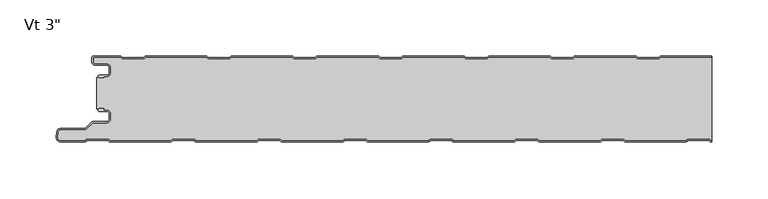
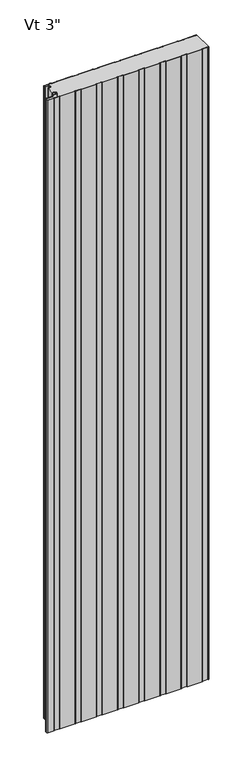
"""IFC4 building model written with IfcOpenShell, lengths in millimetres: plate geometry."""

from ifc_helpers import new_model, si_unit, point, frame, frame_2d, origin, origin_with_axes, place, context, project, spatial, polyline, circle_curve, trimmed, segment, composite_curve, outline, extrude, source, transform, mapped, element, save
from ifc_brep_helpers import plane_surface, cylinder_surface, revolved_surface, advanced_brep


def plate_165f95fd(model_context):
    return source(origin(), model_context, "Body", "SolidModel", [
        advanced_brep(
        [(-270.768691, -17.0015159, 2400.0), (-271.7686883, -18.0015191, 2400.0), (-270.768691, -19.0015105, 2400.0), (-266.7684874, -19.0015105, 2400.0), (-266.7684874, -18.0015159, 2400.0), (-264.0762776, -18.0015159, 2400.0), (-260.7762819, -14.7015202, 2400.0), (-260.7762819, -10.301529, 2400.0), (-264.0762774, -7.0015335, 2400.0), (-274.4962563, -7.0015335, 2400.0), (-276.2662505, -5.2315393, 2400.0), (-276.2662505, -0.9999916, 2400.0), (-251.7659738, -0.9999916, 2400.0), (-250.3803312, -2.2002307, 2400.0), (-231.0051649, -2.2002307, 2400.0), (-229.619532, -1.0, 2400.0), (-175.5661166, -1.0, 2400.0), (-174.1804836, -2.2002307, 2400.0), (-154.8053173, -2.2002307, 2400.0), (-153.4196844, -1.0, 2400.0), (-99.366269, -1.0, 2400.0), (-97.980636, -2.2002307, 2400.0), (-78.6054697, -2.2002307, 2400.0), (-77.2198368, -1.0, 2400.0), (-23.1664214, -1.0, 2400.0), (-21.7807884, -2.2002307, 2400.0), (-2.4056221, -2.2002307, 2400.0), (-1.0199892, -1.0, 2400.0), (53.0334262, -1.0, 2400.0), (54.4190592, -2.2002307, 2400.0), (73.7942255, -2.2002307, 2400.0), (75.1798584, -1.0, 2400.0), (129.2332738, -1.0, 2400.0), (130.6189068, -2.2002307, 2400.0), (149.9940731, -2.2002307, 2400.0), (151.379706, -1.0, 2400.0), (205.4331214, -1.0, 2400.0), (206.8187544, -2.2002307, 2400.0), (226.1939207, -2.2002307, 2400.0), (227.5795536, -1.0, 2400.0), (272.7999998, -1.0, 2400.0), (272.7999998, 0.0, 2400.0), (227.7287048, 0.0, 2400.0), (226.8120879, -0.3417885, 2400.0), (225.8210403, -1.2002307, 2400.0), (207.1916348, -1.2002307, 2400.0), (206.2005872, -0.3417885, 2400.0), (205.2839703, 0.0, 2400.0), (151.5288572, 0.0, 2400.0), (150.6122403, -0.3417885, 2400.0), (149.6211927, -1.2002307, 2400.0), (130.9917872, -1.2002307, 2400.0), (130.0007396, -0.3417885, 2400.0), (129.0841227, 0.0, 2400.0), (75.3290096, 0.0, 2400.0), (74.4123927, -0.3417885, 2400.0), (73.4213451, -1.2002307, 2400.0), (54.7919396, -1.2002307, 2400.0), (53.800892, -0.3417885, 2400.0), (52.8842751, 0.0, 2400.0), (-0.870838, 0.0, 2400.0), (-1.7874549, -0.3417885, 2400.0), (-2.7785025, -1.2002307, 2400.0), (-21.407908, -1.2002307, 2400.0), (-22.3989556, -0.3417885, 2400.0), (-23.3155725, 0.0, 2400.0), (-77.0706856, 0.0, 2400.0), (-77.9873025, -0.3417885, 2400.0), (-78.9783501, -1.2002307, 2400.0), (-97.6077556, -1.2002307, 2400.0), (-98.5988032, -0.3417885, 2400.0), (-99.5154201, 0.0, 2400.0), (-153.2705332, 0.0, 2400.0), (-154.1871501, -0.3417885, 2400.0), (-155.1781977, -1.2002307, 2400.0), (-173.8076032, -1.2002307, 2400.0), (-174.7986508, -0.3417885, 2400.0), (-175.7152677, 0.0, 2400.0), (-229.4703808, 0.0, 2400.0), (-230.3869977, -0.3417885, 2400.0), (-231.3780453, -1.2002307, 2400.0), (-250.0074508, -1.2002307, 2400.0), (-250.9984984, -0.3417885, 2400.0), (-251.9152067, 0.0, 2400.0), (-275.8662543, 8.4e-06, 2400.0), (-277.2662505, -1.3999878, 2400.0), (-277.2662505, -5.2315393, 2400.0), (-274.4962563, -8.0015335, 2400.0), (-264.0762774, -8.0015335, 2400.0), (-261.7762819, -10.301529, 2400.0), (-261.7762819, -14.7015202, 2400.0), (-264.0762776, -17.0015159, 2400.0), (-270.768691, -17.0015159, 0.0), (-264.0762776, -17.0015159, 0.0), (-261.7762819, -14.7015202, 0.0), (-261.7762819, -10.301529, 0.0), (-264.0762774, -8.0015335, 0.0), (-274.4962563, -8.0015335, 0.0), (-277.2662505, -5.2315393, 0.0), (-277.2662505, -1.3999878, 0.0), (-275.8662543, 8.4e-06, 0.0), (-251.9151153, 8.4e-06, 0.0), (-250.9984984, -0.3417885, 0.0), (-250.0074508, -1.2002307, 0.0), (-231.3780453, -1.2002307, 0.0), (-230.3869977, -0.3417885, 0.0), (-229.4703808, 0.0, 0.0), (-175.7152677, 0.0, 0.0), (-174.7986508, -0.3417885, 0.0), (-173.8076032, -1.2002307, 0.0), (-155.1781977, -1.2002307, 0.0), (-154.1871501, -0.3417885, 0.0), (-153.2705332, 0.0, 0.0), (-99.5154201, 0.0, 0.0), (-98.5988032, -0.3417885, 0.0), (-97.6077556, -1.2002307, 0.0), (-78.9783501, -1.2002307, 0.0), (-77.9873025, -0.3417885, 0.0), (-77.0706856, 0.0, 0.0), (-23.3155725, 0.0, 0.0), (-22.3989556, -0.3417885, 0.0), (-21.407908, -1.2002307, 0.0), (-2.7785025, -1.2002307, 0.0), (-1.7874549, -0.3417885, 0.0), (-0.870838, 0.0, 0.0), (52.8842751, 0.0, 0.0), (53.800892, -0.3417885, 0.0), (54.7919396, -1.2002307, 0.0), (73.4213451, -1.2002307, 0.0), (74.4123927, -0.3417885, 0.0), (75.3290096, 0.0, 0.0), (129.0841227, 0.0, 0.0), (130.0007396, -0.3417885, 0.0), (130.9917872, -1.2002307, 0.0), (149.6211927, -1.2002307, 0.0), (150.6122403, -0.3417885, 0.0), (151.5288572, 0.0, 0.0), (205.2839703, 0.0, 0.0), (206.2005872, -0.3417885, 0.0), (207.1916348, -1.2002307, 0.0), (225.8210403, -1.2002307, 0.0), (226.8120879, -0.3417885, 0.0), (227.7287048, 0.0, 0.0), (272.7999998, 0.0, 0.0), (272.7999998, -1.0, 0.0), (227.5795536, -1.0, 0.0), (226.1939207, -2.2002307, 0.0), (206.8187544, -2.2002307, 0.0), (205.4331214, -1.0, 0.0), (151.379706, -1.0, 0.0), (149.9940731, -2.2002307, 0.0), (130.6189068, -2.2002307, 0.0), (129.2332738, -1.0, 0.0), (75.1798584, -1.0, 0.0), (73.7942255, -2.2002307, 0.0), (54.4190592, -2.2002307, 0.0), (53.0334262, -1.0, 0.0), (-1.0199892, -1.0, 0.0), (-2.4056221, -2.2002307, 0.0), (-21.7807884, -2.2002307, 0.0), (-23.1664214, -1.0, 0.0), (-77.2198368, -1.0, 0.0), (-78.6054697, -2.2002307, 0.0), (-97.980636, -2.2002307, 0.0), (-99.366269, -1.0, 0.0), (-153.4196844, -1.0, 0.0), (-154.8053173, -2.2002307, 0.0), (-174.1804836, -2.2002307, 0.0), (-175.5661166, -1.0, 0.0), (-229.619532, -1.0, 0.0), (-231.0051649, -2.2002307, 0.0), (-250.3803312, -2.2002307, 0.0), (-251.7659738, -0.9999916, 0.0), (-276.2662505, -0.9999916, 0.0), (-276.2662505, -5.2315393, 0.0), (-274.4962563, -7.0015335, 0.0), (-264.0762774, -7.0015335, 0.0), (-260.7762819, -10.301529, 0.0), (-260.7762819, -14.7015202, 0.0), (-264.0762776, -18.0015159, 0.0), (-266.7684874, -18.0015159, 0.0), (-266.7684874, -19.0015105, 0.0), (-270.768691, -19.0015105, 0.0), (-271.7686882, -18.0015192, 0.0)],
        [
            (0, 1, circle_curve(frame((-270.768691, -18.0015132, 2400.0), z_axis=(0.0, 0.0, 1.0), x_axis=(1.0, 0.0, 0.0)), 0.9999973)),
            (1, 2, circle_curve(frame((-270.768691, -18.0015133, 2400.0), z_axis=(0.0, 0.0, 1.0), x_axis=(1.0, 0.0, 0.0)), 0.9999972)),
            (2, 3),
            (3, 4),
            (4, 5),
            (5, 6, circle_curve(frame((-264.0762776, -14.7015202, 2400.0), z_axis=(0.0, 0.0, 1.0), x_axis=(1.0, 0.0, 0.0)), 3.2999957)),
            (6, 7),
            (7, 8, circle_curve(frame((-264.0762774, -10.301529, 2400.0), z_axis=(0.0, 0.0, 1.0), x_axis=(1.0, 0.0, 0.0)), 3.2999955)),
            (8, 9),
            (9, 10, circle_curve(frame((-274.4962563, -5.2315393, 2400.0), z_axis=(0.0, 0.0, -1.0), x_axis=(1.0, 0.0, 0.0)), 1.7699942)),
            (10, 11),
            (11, 12),
            (12, 13),
            (13, 14),
            (14, 15),
            (15, 16),
            (16, 17),
            (17, 18),
            (18, 19),
            (19, 20),
            (20, 21),
            (21, 22),
            (22, 23),
            (23, 24),
            (24, 25),
            (25, 26),
            (26, 27),
            (27, 28),
            (28, 29),
            (29, 30),
            (30, 31),
            (31, 32),
            (32, 33),
            (33, 34),
            (34, 35),
            (35, 36),
            (36, 37),
            (37, 38),
            (38, 39),
            (39, 40),
            (40, 41),
            (41, 42),
            (42, 43, circle_curve(frame((227.7287048, -1.3999972, 2400.0), z_axis=(0.0, 0.0, 1.0), x_axis=(1.0, 0.0, 0.0)), 1.3999972)),
            (43, 44),
            (44, 45),
            (45, 46),
            (46, 47, circle_curve(frame((205.2839703, -1.3999972, 2400.0), z_axis=(0.0, 0.0, 1.0), x_axis=(1.0, 0.0, 0.0)), 1.3999972)),
            (47, 48),
            (48, 49, circle_curve(frame((151.5288572, -1.3999972, 2400.0), z_axis=(0.0, 0.0, 1.0), x_axis=(1.0, 0.0, 0.0)), 1.3999972)),
            (49, 50),
            (50, 51),
            (51, 52),
            (52, 53, circle_curve(frame((129.0841227, -1.3999972, 2400.0), z_axis=(0.0, 0.0, 1.0), x_axis=(1.0, 0.0, 0.0)), 1.3999972)),
            (53, 54),
            (54, 55, circle_curve(frame((75.3290096, -1.3999972, 2400.0), z_axis=(0.0, 0.0, 1.0), x_axis=(1.0, 0.0, 0.0)), 1.3999972)),
            (55, 56),
            (56, 57),
            (57, 58),
            (58, 59, circle_curve(frame((52.8842751, -1.3999972, 2400.0), z_axis=(0.0, 0.0, 1.0), x_axis=(1.0, 0.0, 0.0)), 1.3999972)),
            (59, 60),
            (60, 61, circle_curve(frame((-0.870838, -1.3999972, 2400.0), z_axis=(0.0, 0.0, 1.0), x_axis=(1.0, 0.0, 0.0)), 1.3999972)),
            (61, 62),
            (62, 63),
            (63, 64),
            (64, 65, circle_curve(frame((-23.3155725, -1.3999972, 2400.0), z_axis=(0.0, 0.0, 1.0), x_axis=(1.0, 0.0, 0.0)), 1.3999972)),
            (65, 66),
            (66, 67, circle_curve(frame((-77.0706856, -1.3999972, 2400.0), z_axis=(0.0, 0.0, 1.0), x_axis=(1.0, 0.0, 0.0)), 1.3999972)),
            (67, 68),
            (68, 69),
            (69, 70),
            (70, 71, circle_curve(frame((-99.5154201, -1.3999972, 2400.0), z_axis=(0.0, 0.0, 1.0), x_axis=(1.0, 0.0, 0.0)), 1.3999972)),
            (71, 72),
            (72, 73, circle_curve(frame((-153.2705332, -1.3999972, 2400.0), z_axis=(0.0, 0.0, 1.0), x_axis=(1.0, 0.0, 0.0)), 1.3999972)),
            (73, 74),
            (74, 75),
            (75, 76),
            (76, 77, circle_curve(frame((-175.7152677, -1.3999972, 2400.0), z_axis=(0.0, 0.0, 1.0), x_axis=(1.0, 0.0, 0.0)), 1.3999972)),
            (77, 78),
            (78, 79, circle_curve(frame((-229.4703808, -1.3999972, 2400.0), z_axis=(0.0, 0.0, 1.0), x_axis=(1.0, 0.0, 0.0)), 1.3999972)),
            (79, 80),
            (80, 81),
            (81, 82),
            (82, 83, circle_curve(frame((-251.9151153, -1.3999972, 2400.0), z_axis=(0.0, 0.0, 1.0), x_axis=(1.0, 0.0, 0.0)), 1.3999972)),
            (83, 84),
            (84, 85, circle_curve(frame((-275.8662543, -1.3999878, 2400.0), z_axis=(0.0, 0.0, 1.0), x_axis=(1.0, 0.0, 0.0)), 1.3999962)),
            (85, 86),
            (86, 87, circle_curve(frame((-274.4962563, -5.2315393, 2400.0), z_axis=(0.0, 0.0, 1.0), x_axis=(1.0, 0.0, 0.0)), 2.7699942)),
            (87, 88),
            (88, 89, circle_curve(frame((-264.0762774, -10.301529, 2400.0), z_axis=(0.0, 0.0, -1.0), x_axis=(1.0, 0.0, 0.0)), 2.2999955)),
            (89, 90),
            (90, 91, circle_curve(frame((-264.0762776, -14.7015202, 2400.0), z_axis=(0.0, 0.0, -1.0), x_axis=(1.0, 0.0, 0.0)), 2.2999957)),
            (91, 0),
            (92, 93),
            (93, 94, circle_curve(frame((-264.0762776, -14.7015202, 0.0), z_axis=(0.0, 0.0, 1.0), x_axis=(1.0, 0.0, 0.0)), 2.2999957)),
            (94, 95),
            (95, 96, circle_curve(frame((-264.0762774, -10.301529, 0.0), z_axis=(0.0, 0.0, 1.0), x_axis=(1.0, 0.0, 0.0)), 2.2999955)),
            (96, 97),
            (97, 98, circle_curve(frame((-274.4962563, -5.2315393, 0.0), z_axis=(0.0, 0.0, -1.0), x_axis=(1.0, 0.0, 0.0)), 2.7699942)),
            (98, 99),
            (99, 100, circle_curve(frame((-275.8662543, -1.3999878, 0.0), z_axis=(0.0, 0.0, -1.0), x_axis=(1.0, 0.0, 0.0)), 1.3999962)),
            (100, 101),
            (101, 102, circle_curve(frame((-251.9151153, -1.3999972, 0.0), z_axis=(0.0, 0.0, -1.0), x_axis=(1.0, 0.0, 0.0)), 1.3999972)),
            (102, 103),
            (103, 104),
            (104, 105),
            (105, 106, circle_curve(frame((-229.4703808, -1.3999972, 0.0), z_axis=(0.0, 0.0, -1.0), x_axis=(1.0, 0.0, 0.0)), 1.3999972)),
            (106, 107),
            (107, 108, circle_curve(frame((-175.7152677, -1.3999972, 0.0), z_axis=(0.0, 0.0, -1.0), x_axis=(1.0, 0.0, 0.0)), 1.3999972)),
            (108, 109),
            (109, 110),
            (110, 111),
            (111, 112, circle_curve(frame((-153.2705332, -1.3999972, 0.0), z_axis=(0.0, 0.0, -1.0), x_axis=(1.0, 0.0, 0.0)), 1.3999972)),
            (112, 113),
            (113, 114, circle_curve(frame((-99.5154201, -1.3999972, 0.0), z_axis=(0.0, 0.0, -1.0), x_axis=(1.0, 0.0, 0.0)), 1.3999972)),
            (114, 115),
            (115, 116),
            (116, 117),
            (117, 118, circle_curve(frame((-77.0706856, -1.3999972, 0.0), z_axis=(0.0, 0.0, -1.0), x_axis=(1.0, 0.0, 0.0)), 1.3999972)),
            (118, 119),
            (119, 120, circle_curve(frame((-23.3155725, -1.3999972, 0.0), z_axis=(0.0, 0.0, -1.0), x_axis=(1.0, 0.0, 0.0)), 1.3999972)),
            (120, 121),
            (121, 122),
            (122, 123),
            (123, 124, circle_curve(frame((-0.870838, -1.3999972, 0.0), z_axis=(0.0, 0.0, -1.0), x_axis=(1.0, 0.0, 0.0)), 1.3999972)),
            (124, 125),
            (125, 126, circle_curve(frame((52.8842751, -1.3999972, 0.0), z_axis=(0.0, 0.0, -1.0), x_axis=(1.0, 0.0, 0.0)), 1.3999972)),
            (126, 127),
            (127, 128),
            (128, 129),
            (129, 130, circle_curve(frame((75.3290096, -1.3999972, 0.0), z_axis=(0.0, 0.0, -1.0), x_axis=(1.0, 0.0, 0.0)), 1.3999972)),
            (130, 131),
            (131, 132, circle_curve(frame((129.0841227, -1.3999972, 0.0), z_axis=(0.0, 0.0, -1.0), x_axis=(1.0, 0.0, 0.0)), 1.3999972)),
            (132, 133),
            (133, 134),
            (134, 135),
            (135, 136, circle_curve(frame((151.5288572, -1.3999972, 0.0), z_axis=(0.0, 0.0, -1.0), x_axis=(1.0, 0.0, 0.0)), 1.3999972)),
            (136, 137),
            (137, 138, circle_curve(frame((205.2839703, -1.3999972, 0.0), z_axis=(0.0, 0.0, -1.0), x_axis=(1.0, 0.0, 0.0)), 1.3999972)),
            (138, 139),
            (139, 140),
            (140, 141),
            (141, 142, circle_curve(frame((227.7287048, -1.3999972, 0.0), z_axis=(0.0, 0.0, -1.0), x_axis=(1.0, 0.0, 0.0)), 1.3999972)),
            (142, 143),
            (143, 144),
            (144, 145),
            (145, 146),
            (146, 147),
            (147, 148),
            (148, 149),
            (149, 150),
            (150, 151),
            (151, 152),
            (152, 153),
            (153, 154),
            (154, 155),
            (155, 156),
            (156, 157),
            (157, 158),
            (158, 159),
            (159, 160),
            (160, 161),
            (161, 162),
            (162, 163),
            (163, 164),
            (164, 165),
            (165, 166),
            (166, 167),
            (167, 168),
            (168, 169),
            (169, 170),
            (170, 171),
            (171, 172),
            (172, 173),
            (173, 174),
            (174, 175, circle_curve(frame((-274.4962563, -5.2315393, 0.0), z_axis=(0.0, 0.0, 1.0), x_axis=(1.0, 0.0, 0.0)), 1.7699942)),
            (175, 176),
            (176, 177, circle_curve(frame((-264.0762774, -10.301529, 0.0), z_axis=(0.0, 0.0, -1.0), x_axis=(1.0, 0.0, 0.0)), 3.2999955)),
            (177, 178),
            (178, 179, circle_curve(frame((-264.0762776, -14.7015202, 0.0), z_axis=(0.0, 0.0, -1.0), x_axis=(1.0, 0.0, 0.0)), 3.2999957)),
            (179, 180),
            (180, 181),
            (181, 182),
            (182, 183, circle_curve(frame((-270.768691, -18.0015133, 0.0), z_axis=(0.0, 0.0, -1.0), x_axis=(1.0, 0.0, 0.0)), 0.9999972)),
            (183, 92, circle_curve(frame((-270.768691, -18.0015132, 0.0), z_axis=(0.0, 0.0, -1.0), x_axis=(1.0, 0.0, 0.0)), 0.9999973)),
            (91, 93),
            (92, 0),
            (90, 94),
            (89, 95),
            (88, 96),
            (87, 97),
            (86, 98),
            (85, 99),
            (84, 100),
            (83, 101),
            (10, 174),
            (173, 11),
            (9, 175),
            (8, 176),
            (7, 177),
            (6, 178),
            (5, 179),
            (4, 180),
            (3, 181),
            (2, 182),
            (1, 183),
            (40, 144),
            (143, 41),
            (82, 102),
            (81, 103),
            (80, 104),
            (79, 105),
            (78, 106),
            (77, 107),
            (76, 108),
            (75, 109),
            (74, 110),
            (73, 111),
            (72, 112),
            (71, 113),
            (70, 114),
            (69, 115),
            (68, 116),
            (67, 117),
            (66, 118),
            (65, 119),
            (64, 120),
            (63, 121),
            (62, 122),
            (61, 123),
            (60, 124),
            (59, 125),
            (58, 126),
            (57, 127),
            (56, 128),
            (55, 129),
            (54, 130),
            (53, 131),
            (52, 132),
            (51, 133),
            (50, 134),
            (49, 135),
            (48, 136),
            (47, 137),
            (46, 138),
            (45, 139),
            (44, 140),
            (43, 141),
            (42, 142),
            (39, 145),
            (38, 146),
            (37, 147),
            (36, 148),
            (35, 149),
            (34, 150),
            (33, 151),
            (32, 152),
            (31, 153),
            (30, 154),
            (29, 155),
            (28, 156),
            (27, 157),
            (26, 158),
            (25, 159),
            (24, 160),
            (23, 161),
            (22, 162),
            (21, 163),
            (20, 164),
            (19, 165),
            (18, 166),
            (17, 167),
            (16, 168),
            (15, 169),
            (14, 170),
            (13, 171),
            (12, 172),
        ],
        [
            plane_surface(frame((184.4000002, 0.0, 2400.0), z_axis=(0.0, 0.0, 1.0), x_axis=(0.0, 1.0, 0.0))),
            plane_surface(frame((184.4000002, 0.0, 0.0), z_axis=(0.0, 0.0, -1.0), x_axis=(0.0, 1.0, 0.0))),
            plane_surface(frame((-270.768691, -17.0015159, 2400.0), z_axis=(0.0, 1.0, 0.0), x_axis=(0.0, 0.0, -1.0))),
            revolved_surface(polyline([(-261.7762819, -14.7015202, 0.0), (-261.7762819, -14.7015202, 2400.0)]), (-264.0762776, -14.7015202, 2400.0), (0.0, 0.0, -1.0)),
            plane_surface(frame((-261.7762819, -14.7015202, 2400.0), z_axis=(-1.0, 0.0, 0.0), x_axis=(0.0, 0.0, -1.0))),
            revolved_surface(polyline([(-261.77628189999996, -10.301529, 0.0), (-261.77628189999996, -10.301529, 2400.0)]), (-264.0762774, -10.301529, 2400.0), (0.0, 0.0, -1.0)),
            plane_surface(frame((-264.0762774, -8.0015335, 2400.0), z_axis=(0.0, -1.0, 0.0), x_axis=(0.0, 0.0, -1.0))),
            cylinder_surface(frame((-274.4962563, -5.2315393, 2400.0), z_axis=(0.0, 0.0, 1.0), x_axis=(1.0, 0.0, 0.0)), 2.7699942),
            plane_surface(frame((-277.2662505, -5.2315393, 2400.0), z_axis=(-1.0, 0.0, 0.0), x_axis=(0.0, 0.0, -1.0))),
            cylinder_surface(frame((-275.8662543, -1.3999878, 2400.0), z_axis=(0.0, 0.0, 1.0), x_axis=(1.0, 0.0, 0.0)), 1.3999962),
            plane_surface(frame((-275.8662543, 8.4e-06, 2400.0), z_axis=(0.0, 1.0, 0.0), x_axis=(0.0, 0.0, -1.0))),
            plane_surface(frame((-276.2662505, -0.9999916, 2400.0), z_axis=(1.0, 0.0, 0.0), x_axis=(0.0, 0.0, -1.0))),
            revolved_surface(polyline([(-272.72626210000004, -5.2315393, 0.0), (-272.72626210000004, -5.2315393, 2400.0)]), (-274.4962563, -5.2315393, 2400.0), (0.0, 0.0, -1.0)),
            plane_surface(frame((-274.4962563, -7.0015335, 2400.0), z_axis=(0.0, 1.0, 0.0), x_axis=(0.0, 0.0, -1.0))),
            cylinder_surface(frame((-264.0762774, -10.301529, 2400.0), z_axis=(0.0, 0.0, 1.0), x_axis=(1.0, 0.0, 0.0)), 3.2999955),
            plane_surface(frame((-260.7762819, -10.301529, 2400.0), z_axis=(1.0, 0.0, 0.0), x_axis=(0.0, 0.0, -1.0))),
            cylinder_surface(frame((-264.0762776, -14.7015202, 2400.0), z_axis=(0.0, 0.0, 1.0), x_axis=(1.0, 0.0, 0.0)), 3.2999957),
            plane_surface(frame((-264.0762776, -18.0015159, 2400.0), z_axis=(0.0, -1.0, 0.0), x_axis=(0.0, 0.0, -1.0))),
            plane_surface(frame((-266.7684874, -18.0015159, 2400.0), z_axis=(1.0, 0.0, 0.0), x_axis=(0.0, 0.0, -1.0))),
            plane_surface(frame((-266.7684874, -19.0015105, 2400.0), z_axis=(0.0, -1.0, 0.0), x_axis=(0.0, 0.0, -1.0))),
            cylinder_surface(frame((-270.768691, -18.0015133, 2400.0), z_axis=(0.0, 0.0, 1.0), x_axis=(1.0, 0.0, 0.0)), 0.9999972),
            cylinder_surface(frame((-270.768691, -18.0015132, 2400.0), z_axis=(0.0, 0.0, 1.0), x_axis=(1.0, 0.0, 0.0)), 0.9999973),
            plane_surface(frame((272.7999998, -86.2, 2400.0), z_axis=(1.0, 0.0, 0.0), x_axis=(0.0, 0.0, -1.0))),
            cylinder_surface(frame((-251.9151153, -1.3999972, 2400.0), z_axis=(0.0, 0.0, 1.0), x_axis=(1.0, 0.0, 0.0)), 1.3999972),
            plane_surface(frame((-250.9984984, -0.3417885, 2400.0), z_axis=(0.6547276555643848, 0.7558648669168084, 0.0), x_axis=(0.0, 0.0, -1.0))),
            plane_surface(frame((-240.6927481, -1.2002307, 2400.0), z_axis=(0.0, 1.0, 0.0), x_axis=(0.0, 0.0, -1.0))),
            plane_surface(frame((-231.3780453, -1.2002307, 2400.0), z_axis=(-0.6547276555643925, 0.7558648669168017, 0.0), x_axis=(0.0, 0.0, -1.0))),
            cylinder_surface(frame((-229.4703808, -1.3999972, 2400.0), z_axis=(0.0, 0.0, 1.0), x_axis=(1.0, 0.0, 0.0)), 1.3999972),
            plane_surface(frame((-229.4703808, 0.0, 2400.0), z_axis=(0.0, 1.0, 0.0), x_axis=(0.0, 0.0, -1.0))),
            cylinder_surface(frame((-175.7152677, -1.3999972, 2400.0), z_axis=(0.0, 0.0, 1.0), x_axis=(1.0, 0.0, 0.0)), 1.3999972),
            plane_surface(frame((-174.7986508, -0.3417885, 2400.0), z_axis=(0.6547276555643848, 0.7558648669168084, 0.0), x_axis=(0.0, 0.0, -1.0))),
            plane_surface(frame((-164.4929005, -1.2002307, 2400.0), z_axis=(0.0, 1.0, 0.0), x_axis=(0.0, 0.0, -1.0))),
            plane_surface(frame((-155.1781977, -1.2002307, 2400.0), z_axis=(-0.6547276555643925, 0.7558648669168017, 0.0), x_axis=(0.0, 0.0, -1.0))),
            cylinder_surface(frame((-153.2705332, -1.3999972, 2400.0), z_axis=(0.0, 0.0, 1.0), x_axis=(1.0, 0.0, 0.0)), 1.3999972),
            plane_surface(frame((-153.2705332, 0.0, 2400.0), z_axis=(0.0, 1.0, 0.0), x_axis=(0.0, 0.0, -1.0))),
            cylinder_surface(frame((-99.5154201, -1.3999972, 2400.0), z_axis=(0.0, 0.0, 1.0), x_axis=(1.0, 0.0, 0.0)), 1.3999972),
            plane_surface(frame((-98.5988032, -0.3417885, 2400.0), z_axis=(0.6547276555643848, 0.7558648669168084, 0.0), x_axis=(0.0, 0.0, -1.0))),
            plane_surface(frame((-88.2930529, -1.2002307, 2400.0), z_axis=(0.0, 1.0, 0.0), x_axis=(0.0, 0.0, -1.0))),
            plane_surface(frame((-78.9783501, -1.2002307, 2400.0), z_axis=(-0.6547276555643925, 0.7558648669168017, 0.0), x_axis=(0.0, 0.0, -1.0))),
            cylinder_surface(frame((-77.0706856, -1.3999972, 2400.0), z_axis=(0.0, 0.0, 1.0), x_axis=(1.0, 0.0, 0.0)), 1.3999972),
            plane_surface(frame((-77.0706856, 0.0, 2400.0), z_axis=(0.0, 1.0, 0.0), x_axis=(0.0, 0.0, -1.0))),
            cylinder_surface(frame((-23.3155725, -1.3999972, 2400.0), z_axis=(0.0, 0.0, 1.0), x_axis=(1.0, 0.0, 0.0)), 1.3999972),
            plane_surface(frame((-22.3989556, -0.3417885, 2400.0), z_axis=(0.6547276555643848, 0.7558648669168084, 0.0), x_axis=(0.0, 0.0, -1.0))),
            plane_surface(frame((-12.0932053, -1.2002307, 2400.0), z_axis=(0.0, 1.0, 0.0), x_axis=(0.0, 0.0, -1.0))),
            plane_surface(frame((-2.7785025, -1.2002307, 2400.0), z_axis=(-0.6547276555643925, 0.7558648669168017, 0.0), x_axis=(0.0, 0.0, -1.0))),
            cylinder_surface(frame((-0.870838, -1.3999972, 2400.0), z_axis=(0.0, 0.0, 1.0), x_axis=(1.0, 0.0, 0.0)), 1.3999972),
            plane_surface(frame((-0.870838, 0.0, 2400.0), z_axis=(0.0, 1.0, 0.0), x_axis=(0.0, 0.0, -1.0))),
            cylinder_surface(frame((52.8842751, -1.3999972, 2400.0), z_axis=(0.0, 0.0, 1.0), x_axis=(1.0, 0.0, 0.0)), 1.3999972),
            plane_surface(frame((53.800892, -0.3417885, 2400.0), z_axis=(0.6547276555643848, 0.7558648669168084, 0.0), x_axis=(0.0, 0.0, -1.0))),
            plane_surface(frame((64.1066423, -1.2002307, 2400.0), z_axis=(0.0, 1.0, 0.0), x_axis=(0.0, 0.0, -1.0))),
            plane_surface(frame((73.4213451, -1.2002307, 2400.0), z_axis=(-0.6547276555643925, 0.7558648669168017, 0.0), x_axis=(0.0, 0.0, -1.0))),
            cylinder_surface(frame((75.3290096, -1.3999972, 2400.0), z_axis=(0.0, 0.0, 1.0), x_axis=(1.0, 0.0, 0.0)), 1.3999972),
            plane_surface(frame((75.3290096, 0.0, 2400.0), z_axis=(0.0, 1.0, 0.0), x_axis=(0.0, 0.0, -1.0))),
            cylinder_surface(frame((129.0841227, -1.3999972, 2400.0), z_axis=(0.0, 0.0, 1.0), x_axis=(1.0, 0.0, 0.0)), 1.3999972),
            plane_surface(frame((130.0007396, -0.3417885, 2400.0), z_axis=(0.6547276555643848, 0.7558648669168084, 0.0), x_axis=(0.0, 0.0, -1.0))),
            plane_surface(frame((140.3064899, -1.2002307, 2400.0), z_axis=(0.0, 1.0, 0.0), x_axis=(0.0, 0.0, -1.0))),
            plane_surface(frame((149.6211927, -1.2002307, 2400.0), z_axis=(-0.6547276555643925, 0.7558648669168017, 0.0), x_axis=(0.0, 0.0, -1.0))),
            cylinder_surface(frame((151.5288572, -1.3999972, 2400.0), z_axis=(0.0, 0.0, 1.0), x_axis=(1.0, 0.0, 0.0)), 1.3999972),
            plane_surface(frame((151.5288572, 0.0, 2400.0), z_axis=(0.0, 1.0, 0.0), x_axis=(0.0, 0.0, -1.0))),
            cylinder_surface(frame((205.2839703, -1.3999972, 2400.0), z_axis=(0.0, 0.0, 1.0), x_axis=(1.0, 0.0, 0.0)), 1.3999972),
            plane_surface(frame((206.2005872, -0.3417885, 2400.0), z_axis=(0.6547276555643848, 0.7558648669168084, 0.0), x_axis=(0.0, 0.0, -1.0))),
            plane_surface(frame((216.5063375, -1.2002307, 2400.0), z_axis=(0.0, 1.0, 0.0), x_axis=(0.0, 0.0, -1.0))),
            plane_surface(frame((225.8210403, -1.2002307, 2400.0), z_axis=(-0.6547276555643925, 0.7558648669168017, 0.0), x_axis=(0.0, 0.0, -1.0))),
            cylinder_surface(frame((227.7287048, -1.3999972, 2400.0), z_axis=(0.0, 0.0, 1.0), x_axis=(1.0, 0.0, 0.0)), 1.3999972),
            plane_surface(frame((227.7287048, 0.0, 2400.0), z_axis=(0.0, 1.0, 0.0), x_axis=(0.0, 0.0, -1.0))),
            plane_surface(frame((281.632969, -1.0, 2400.0), z_axis=(0.0, -1.0, 0.0), x_axis=(0.0, 0.0, -1.0))),
            plane_surface(frame((227.5795536, -1.0, 2400.0), z_axis=(0.6547276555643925, -0.7558648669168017, 0.0), x_axis=(0.0, 0.0, -1.0))),
            plane_surface(frame((226.1939207, -2.2002307, 2400.0), z_axis=(0.0, -1.0, 0.0), x_axis=(0.0, 0.0, -1.0))),
            plane_surface(frame((206.8187544, -2.2002307, 2400.0), z_axis=(-0.6547276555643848, -0.7558648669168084, 0.0), x_axis=(0.0, 0.0, -1.0))),
            plane_surface(frame((205.4331214, -1.0, 2400.0), z_axis=(0.0, -1.0, 0.0), x_axis=(0.0, 0.0, -1.0))),
            plane_surface(frame((151.379706, -1.0, 2400.0), z_axis=(0.6547276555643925, -0.7558648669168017, 0.0), x_axis=(0.0, 0.0, -1.0))),
            plane_surface(frame((149.9940731, -2.2002307, 2400.0), z_axis=(0.0, -1.0, 0.0), x_axis=(0.0, 0.0, -1.0))),
            plane_surface(frame((130.6189068, -2.2002307, 2400.0), z_axis=(-0.6547276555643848, -0.7558648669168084, 0.0), x_axis=(0.0, 0.0, -1.0))),
            plane_surface(frame((129.2332738, -1.0, 2400.0), z_axis=(0.0, -1.0, 0.0), x_axis=(0.0, 0.0, -1.0))),
            plane_surface(frame((75.1798584, -1.0, 2400.0), z_axis=(0.6547276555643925, -0.7558648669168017, 0.0), x_axis=(0.0, 0.0, -1.0))),
            plane_surface(frame((73.7942255, -2.2002307, 2400.0), z_axis=(0.0, -1.0, 0.0), x_axis=(0.0, 0.0, -1.0))),
            plane_surface(frame((54.4190592, -2.2002307, 2400.0), z_axis=(-0.6547276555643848, -0.7558648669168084, 0.0), x_axis=(0.0, 0.0, -1.0))),
            plane_surface(frame((53.0334262, -1.0, 2400.0), z_axis=(0.0, -1.0, 0.0), x_axis=(0.0, 0.0, -1.0))),
            plane_surface(frame((-1.0199892, -1.0, 2400.0), z_axis=(0.6547276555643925, -0.7558648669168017, 0.0), x_axis=(0.0, 0.0, -1.0))),
            plane_surface(frame((-2.4056221, -2.2002307, 2400.0), z_axis=(0.0, -1.0, 0.0), x_axis=(0.0, 0.0, -1.0))),
            plane_surface(frame((-21.7807884, -2.2002307, 2400.0), z_axis=(-0.6547276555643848, -0.7558648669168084, 0.0), x_axis=(0.0, 0.0, -1.0))),
            plane_surface(frame((-23.1664214, -1.0, 2400.0), z_axis=(0.0, -1.0, 0.0), x_axis=(0.0, 0.0, -1.0))),
            plane_surface(frame((-77.2198368, -1.0, 2400.0), z_axis=(0.6547276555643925, -0.7558648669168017, 0.0), x_axis=(0.0, 0.0, -1.0))),
            plane_surface(frame((-78.6054697, -2.2002307, 2400.0), z_axis=(0.0, -1.0, 0.0), x_axis=(0.0, 0.0, -1.0))),
            plane_surface(frame((-97.980636, -2.2002307, 2400.0), z_axis=(-0.6547276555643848, -0.7558648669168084, 0.0), x_axis=(0.0, 0.0, -1.0))),
            plane_surface(frame((-99.366269, -1.0, 2400.0), z_axis=(0.0, -1.0, 0.0), x_axis=(0.0, 0.0, -1.0))),
            plane_surface(frame((-153.4196844, -1.0, 2400.0), z_axis=(0.6547276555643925, -0.7558648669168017, 0.0), x_axis=(0.0, 0.0, -1.0))),
            plane_surface(frame((-154.8053173, -2.2002307, 2400.0), z_axis=(0.0, -1.0, 0.0), x_axis=(0.0, 0.0, -1.0))),
            plane_surface(frame((-174.1804836, -2.2002307, 2400.0), z_axis=(-0.6547276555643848, -0.7558648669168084, 0.0), x_axis=(0.0, 0.0, -1.0))),
            plane_surface(frame((-175.5661166, -1.0, 2400.0), z_axis=(0.0, -1.0, 0.0), x_axis=(0.0, 0.0, -1.0))),
            plane_surface(frame((-229.619532, -1.0, 2400.0), z_axis=(0.6547276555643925, -0.7558648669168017, 0.0), x_axis=(0.0, 0.0, -1.0))),
            plane_surface(frame((-231.0051649, -2.2002307, 2400.0), z_axis=(0.0, -1.0, 0.0), x_axis=(0.0, 0.0, -1.0))),
            plane_surface(frame((-250.3803312, -2.2002307, 2400.0), z_axis=(-0.6547276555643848, -0.7558648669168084, 0.0), x_axis=(0.0, 0.0, -1.0))),
            plane_surface(frame((-251.7659738, -0.9999916, 2400.0), z_axis=(0.0, -1.0, 0.0), x_axis=(0.0, 0.0, -1.0))),
        ],
        [
            (0, [[1, 2, 3, 4, 5, 6, 7, 8, 9, 10, 11, 12, 13, 14, 15, 16, 17, 18, 19, 20, 21, 22, 23, 24, 25, 26, 27, 28, 29, 30, 31, 32, 33, 34, 35, 36, 37, 38, 39, 40, 41, 42, 43, 44, 45, 46, 47, 48, 49, 50, 51, 52, 53, 54, 55, 56, 57, 58, 59, 60, 61, 62, 63, 64, 65, 66, 67, 68, 69, 70, 71, 72, 73, 74, 75, 76, 77, 78, 79, 80, 81, 82, 83, 84, 85, 86, 87, 88, 89, 90, 91, 92]]),
            (1, [[93, 94, 95, 96, 97, 98, 99, 100, 101, 102, 103, 104, 105, 106, 107, 108, 109, 110, 111, 112, 113, 114, 115, 116, 117, 118, 119, 120, 121, 122, 123, 124, 125, 126, 127, 128, 129, 130, 131, 132, 133, 134, 135, 136, 137, 138, 139, 140, 141, 142, 143, 144, 145, 146, 147, 148, 149, 150, 151, 152, 153, 154, 155, 156, 157, 158, 159, 160, 161, 162, 163, 164, 165, 166, 167, 168, 169, 170, 171, 172, 173, 174, 175, 176, 177, 178, 179, 180, 181, 182, 183, 184]]),
            (2, [[185, -93, 186, -92]]),
            (3, [[187, -94, -185, -91]]),
            (4, [[188, -95, -187, -90]]),
            (5, [[189, -96, -188, -89]]),
            (6, [[190, -97, -189, -88]]),
            (7, [[191, -98, -190, -87]]),
            (8, [[192, -99, -191, -86]]),
            (9, [[193, -100, -192, -85]]),
            (10, [[194, -101, -193, -84]]),
            (11, [[195, -174, 196, -11]]),
            (12, [[197, -175, -195, -10]]),
            (13, [[198, -176, -197, -9]]),
            (14, [[199, -177, -198, -8]]),
            (15, [[200, -178, -199, -7]]),
            (16, [[201, -179, -200, -6]]),
            (17, [[202, -180, -201, -5]]),
            (18, [[203, -181, -202, -4]]),
            (19, [[204, -182, -203, -3]]),
            (20, [[205, -183, -204, -2]]),
            (21, [[-186, -184, -205, -1]]),
            (22, [[206, -144, 207, -41]]),
            (23, [[208, -102, -194, -83]]),
            (24, [[209, -103, -208, -82]]),
            (25, [[210, -104, -209, -81]]),
            (26, [[211, -105, -210, -80]]),
            (27, [[212, -106, -211, -79]]),
            (28, [[213, -107, -212, -78]]),
            (29, [[214, -108, -213, -77]]),
            (30, [[215, -109, -214, -76]]),
            (31, [[216, -110, -215, -75]]),
            (32, [[217, -111, -216, -74]]),
            (33, [[218, -112, -217, -73]]),
            (34, [[219, -113, -218, -72]]),
            (35, [[220, -114, -219, -71]]),
            (36, [[221, -115, -220, -70]]),
            (37, [[222, -116, -221, -69]]),
            (38, [[223, -117, -222, -68]]),
            (39, [[224, -118, -223, -67]]),
            (40, [[225, -119, -224, -66]]),
            (41, [[226, -120, -225, -65]]),
            (42, [[227, -121, -226, -64]]),
            (43, [[228, -122, -227, -63]]),
            (44, [[229, -123, -228, -62]]),
            (45, [[230, -124, -229, -61]]),
            (46, [[231, -125, -230, -60]]),
            (47, [[232, -126, -231, -59]]),
            (48, [[233, -127, -232, -58]]),
            (49, [[234, -128, -233, -57]]),
            (50, [[235, -129, -234, -56]]),
            (51, [[236, -130, -235, -55]]),
            (52, [[237, -131, -236, -54]]),
            (53, [[238, -132, -237, -53]]),
            (54, [[239, -133, -238, -52]]),
            (55, [[240, -134, -239, -51]]),
            (56, [[241, -135, -240, -50]]),
            (57, [[242, -136, -241, -49]]),
            (58, [[243, -137, -242, -48]]),
            (59, [[244, -138, -243, -47]]),
            (60, [[245, -139, -244, -46]]),
            (61, [[246, -140, -245, -45]]),
            (62, [[247, -141, -246, -44]]),
            (63, [[248, -142, -247, -43]]),
            (64, [[-42, -207, -143, -248]]),
            (65, [[-145, -206, -40, 249]]),
            (66, [[250, -146, -249, -39]]),
            (67, [[251, -147, -250, -38]]),
            (68, [[252, -148, -251, -37]]),
            (69, [[253, -149, -252, -36]]),
            (70, [[254, -150, -253, -35]]),
            (71, [[255, -151, -254, -34]]),
            (72, [[256, -152, -255, -33]]),
            (73, [[257, -153, -256, -32]]),
            (74, [[258, -154, -257, -31]]),
            (75, [[259, -155, -258, -30]]),
            (76, [[260, -156, -259, -29]]),
            (77, [[261, -157, -260, -28]]),
            (78, [[262, -158, -261, -27]]),
            (79, [[263, -159, -262, -26]]),
            (80, [[264, -160, -263, -25]]),
            (81, [[265, -161, -264, -24]]),
            (82, [[266, -162, -265, -23]]),
            (83, [[267, -163, -266, -22]]),
            (84, [[268, -164, -267, -21]]),
            (85, [[269, -165, -268, -20]]),
            (86, [[270, -166, -269, -19]]),
            (87, [[271, -167, -270, -18]]),
            (88, [[272, -168, -271, -17]]),
            (89, [[273, -169, -272, -16]]),
            (90, [[274, -170, -273, -15]]),
            (91, [[275, -171, -274, -14]]),
            (92, [[276, -172, -275, -13]]),
            (93, [[-196, -173, -276, -12]]),
        ],
    ),
        extrude(outline(composite_curve([segment(polyline([(-283.4415932, -76.1997378), (-305.2521175, -76.1997378)]), True, "CONTINUOUS"), segment(trimmed(circle_curve(frame_2d((-305.2521175, -72.6294985)), 3.5702393), [point((-305.2521175, -76.1997378))], [point((-308.8087619, -72.3182281))], False, "CARTESIAN"), True, "CONTINUOUS"), segment(polyline([(-308.8087619, -72.3182281), (-308.3690674, -67.2941815)]), True, "CONTINUOUS"), segment(trimmed(circle_curve(frame_2d((-304.7198391, -67.9049826)), 3.6999926), [point((-308.3690674, -67.2941815))], [point((-304.7198391, -64.20499))], False, "CARTESIAN"), True, "CONTINUOUS"), segment(polyline([(-304.7198391, -64.20499), (-283.5773995, -64.20499)]), True, "CONTINUOUS"), segment(trimmed(circle_curve(frame_2d((-283.5773995, -62.9049926)), 1.2999974), [point((-283.5773995, -64.20499))], [point((-282.6581626, -63.8242296))], True, "CARTESIAN"), True, "CONTINUOUS"), segment(polyline([(-282.6581626, -63.8242296), (-277.8297451, -58.9958121)]), True, "CONTINUOUS"), segment(trimmed(circle_curve(frame_2d((-275.9205606, -60.9049966)), 2.6999946), [point((-277.8297451, -58.9958121))], [point((-275.9205606, -58.205002))], False, "CARTESIAN"), True, "CONTINUOUS"), segment(polyline([(-275.9205606, -58.205002), (-264.1096715, -58.205002)]), True, "CONTINUOUS"), segment(trimmed(circle_curve(frame_2d((-264.1096715, -55.8550067)), 2.3499953), [point((-264.1096715, -58.205002))], [point((-261.7596762, -55.8550067))], True, "CARTESIAN"), True, "CONTINUOUS"), segment(polyline([(-261.7596762, -55.8550067), (-261.7596762, -51.4550155)]), True, "CONTINUOUS"), segment(trimmed(circle_curve(frame_2d((-264.1096715, -51.4550155)), 2.3499953), [point((-261.7596762, -51.4550155))], [point((-264.1096715, -49.1050202))], True, "CARTESIAN"), True, "CONTINUOUS"), segment(polyline([(-264.1096715, -49.1050202), (-270.6289777, -49.1050202)]), True, "CONTINUOUS"), segment(trimmed(circle_curve(frame_2d((-270.5686906, -47.906538)), 1.1999976), [point((-270.6289777, -49.1050202))], [point((-271.7683, -47.8760161))], False, "CARTESIAN"), True, "CONTINUOUS"), segment(trimmed(circle_curve(frame_2d((-270.5686906, -47.906538)), 1.1999976), [point((-271.7683, -47.8760161))], [point((-270.567176, -46.7065413))], False, "CARTESIAN"), True, "CONTINUOUS"), segment(polyline([(-270.567176, -46.7065413), (-266.8087826, -46.7065413), (-266.8087826, -48.1050202), (-264.1096715, -48.1050202)]), True, "CONTINUOUS"), segment(trimmed(circle_curve(frame_2d((-264.1096715, -51.4550155)), 3.3499953), [point((-264.1096715, -48.1050202))], [point((-260.7596762, -51.4550155))], False, "CARTESIAN"), True, "CONTINUOUS"), segment(polyline([(-260.7596762, -51.4550155), (-260.7596762, -55.8550067)]), True, "CONTINUOUS"), segment(trimmed(circle_curve(frame_2d((-264.1096715, -55.8550067)), 3.3499953), [point((-260.7596762, -55.8550067))], [point((-264.1096715, -59.205002))], False, "CARTESIAN"), True, "CONTINUOUS"), segment(polyline([(-264.1096715, -59.205002), (-275.9205606, -59.205002)]), True, "CONTINUOUS"), segment(trimmed(circle_curve(frame_2d((-275.9205606, -60.9049966)), 1.6999946), [point((-275.9205606, -59.205002))], [point((-277.1226383, -59.7029189))], True, "CARTESIAN"), True, "CONTINUOUS"), segment(polyline([(-277.1226383, -59.7029189), (-282.6247094, -65.20499), (-304.7198391, -65.20499)]), True, "CONTINUOUS"), segment(trimmed(circle_curve(frame_2d((-304.7198391, -67.9049826)), 2.6999926), [point((-304.7198391, -65.20499))], [point((-307.3765707, -67.423592))], True, "CARTESIAN"), True, "CONTINUOUS"), segment(polyline([(-307.3765707, -67.423592), (-307.8125697, -72.4054129)]), True, "CONTINUOUS"), segment(trimmed(circle_curve(frame_2d((-305.2521175, -72.6294985)), 2.5702393), [point((-307.8125697, -72.4054129))], [point((-305.2521175, -75.1997378))], True, "CARTESIAN"), True, "CONTINUOUS"), segment(polyline([(-305.2521175, -75.1997378), (-283.279096, -75.1997378), (-282.0791275, -73.9997693), (-262.359715, -73.9997693), (-261.1594843, -75.2), (-207.0793525, -75.2), (-205.8791218, -73.9997693), (-186.1597093, -73.9997693), (-184.9594786, -75.2), (-130.8793468, -75.2), (-129.6791161, -73.9997693), (-109.9597036, -73.9997693), (-108.7594729, -75.2), (-54.6793411, -75.2), (-53.4791104, -73.9997693), (-33.7596979, -73.9997693), (-32.5594672, -75.2), (21.5206646, -75.2), (22.7208953, -73.9997693), (42.4403078, -73.9997693), (43.6405385, -75.2), (97.7206703, -75.2), (98.920901, -73.9997693), (118.6403135, -73.9997693), (119.8405442, -75.2), (173.9206759, -75.2), (175.1209066, -73.9997693), (194.8403192, -73.9997693), (196.0405499, -75.2), (250.1206816, -75.2), (251.3209123, -73.9997693), (271.0403248, -73.9997693), (272.2405555, -75.2), (272.7999998, -75.2), (272.7999998, -76.2), (272.4096744, -76.2)]), True, "CONTINUOUS"), segment(trimmed(circle_curve(frame_2d((272.402021, -74.8000237)), 1.3999972), [point((272.4096744, -76.2))], [point((271.3579702, -75.7327349))], False, "CARTESIAN"), True, "CONTINUOUS"), segment(polyline([(271.3579702, -75.7327349), (270.6250046, -74.9997693), (251.7343354, -74.9997693), (251.0013908, -75.732714)]), True, "CONTINUOUS"), segment(trimmed(circle_curve(frame_2d((249.95734, -74.8000028)), 1.3999972), [point((251.0013908, -75.732714))], [point((249.95734, -76.2))], False, "CARTESIAN"), True, "CONTINUOUS"), segment(polyline([(249.95734, -76.2), (196.2098268, -76.2)]), True, "CONTINUOUS"), segment(trimmed(circle_curve(frame_2d((196.2021734, -74.8000237)), 1.3999972), [point((196.2098268, -76.2))], [point((195.1581226, -75.7327349))], False, "CARTESIAN"), True, "CONTINUOUS"), segment(polyline([(195.1581226, -75.7327349), (194.425157, -74.9997693), (175.5344878, -74.9997693), (174.8015432, -75.732714)]), True, "CONTINUOUS"), segment(trimmed(circle_curve(frame_2d((173.7574924, -74.8000028)), 1.3999972), [point((174.8015432, -75.732714))], [point((173.7574924, -76.2))], False, "CARTESIAN"), True, "CONTINUOUS"), segment(polyline([(173.7574924, -76.2), (120.0099792, -76.2)]), True, "CONTINUOUS"), segment(trimmed(circle_curve(frame_2d((120.0023258, -74.8000237)), 1.3999972), [point((120.0099792, -76.2))], [point((118.958275, -75.7327349))], False, "CARTESIAN"), True, "CONTINUOUS"), segment(polyline([(118.958275, -75.7327349), (118.2253094, -74.9997693), (99.3346402, -74.9997693), (98.6016956, -75.732714)]), True, "CONTINUOUS"), segment(trimmed(circle_curve(frame_2d((97.5576448, -74.8000028)), 1.3999972), [point((98.6016956, -75.732714))], [point((97.5576448, -76.2))], False, "CARTESIAN"), True, "CONTINUOUS"), segment(polyline([(97.5576448, -76.2), (43.8101316, -76.2)]), True, "CONTINUOUS"), segment(trimmed(circle_curve(frame_2d((43.8024782, -74.8000237)), 1.3999972), [point((43.8101316, -76.2))], [point((42.7584274, -75.7327349))], False, "CARTESIAN"), True, "CONTINUOUS"), segment(polyline([(42.7584274, -75.7327349), (42.0254618, -74.9997693), (23.1347926, -74.9997693), (22.401848, -75.732714)]), True, "CONTINUOUS"), segment(trimmed(circle_curve(frame_2d((21.3577972, -74.8000028)), 1.3999972), [point((22.401848, -75.732714))], [point((21.3577972, -76.2))], False, "CARTESIAN"), True, "CONTINUOUS"), segment(polyline([(21.3577972, -76.2), (-32.389716, -76.2)]), True, "CONTINUOUS"), segment(trimmed(circle_curve(frame_2d((-32.3973694, -74.8000237)), 1.3999972), [point((-32.389716, -76.2))], [point((-33.4414202, -75.7327349))], False, "CARTESIAN"), True, "CONTINUOUS"), segment(polyline([(-33.4414202, -75.7327349), (-34.1743858, -74.9997693), (-53.065055, -74.9997693), (-53.7979996, -75.732714)]), True, "CONTINUOUS"), segment(trimmed(circle_curve(frame_2d((-54.8420504, -74.8000028)), 1.3999972), [point((-53.7979996, -75.732714))], [point((-54.8420504, -76.2))], False, "CARTESIAN"), True, "CONTINUOUS"), segment(polyline([(-54.8420504, -76.2), (-108.5895636, -76.2)]), True, "CONTINUOUS"), segment(trimmed(circle_curve(frame_2d((-108.597217, -74.8000237)), 1.3999972), [point((-108.5895636, -76.2))], [point((-109.6412678, -75.7327349))], False, "CARTESIAN"), True, "CONTINUOUS"), segment(polyline([(-109.6412678, -75.7327349), (-110.3742334, -74.9997693), (-129.2649026, -74.9997693), (-129.9978472, -75.732714)]), True, "CONTINUOUS"), segment(trimmed(circle_curve(frame_2d((-131.041898, -74.8000028)), 1.3999972), [point((-129.9978472, -75.732714))], [point((-131.041898, -76.2))], False, "CARTESIAN"), True, "CONTINUOUS"), segment(polyline([(-131.041898, -76.2), (-184.7894112, -76.2)]), True, "CONTINUOUS"), segment(trimmed(circle_curve(frame_2d((-184.7970646, -74.8000237)), 1.3999972), [point((-184.7894112, -76.2))], [point((-185.8411154, -75.7327349))], False, "CARTESIAN"), True, "CONTINUOUS"), segment(polyline([(-185.8411154, -75.7327349), (-186.574081, -74.9997693), (-205.4647502, -74.9997693), (-206.1976948, -75.732714)]), True, "CONTINUOUS"), segment(trimmed(circle_curve(frame_2d((-207.2417456, -74.8000028)), 1.3999972), [point((-206.1976948, -75.732714))], [point((-207.2417456, -76.2))], False, "CARTESIAN"), True, "CONTINUOUS"), segment(polyline([(-207.2417456, -76.2), (-260.9892588, -76.2)]), True, "CONTINUOUS"), segment(trimmed(circle_curve(frame_2d((-260.9969122, -74.8000237)), 1.3999972), [point((-260.9892588, -76.2))], [point((-262.040963, -75.7327349))], False, "CARTESIAN"), True, "CONTINUOUS"), segment(polyline([(-262.040963, -75.7327349), (-262.7739286, -74.9997693), (-281.6649139, -74.9997693), (-282.3976402, -75.7324955)]), True, "CONTINUOUS"), segment(trimmed(circle_curve(frame_2d((-283.4415932, -74.7998717)), 1.3998661), [point((-282.3976402, -75.7324955))], [point((-283.4415932, -76.1997378))], False, "CARTESIAN"), True, "CONTINUOUS")], self_intersect=False)), origin_with_axes(), (0.0, 0.0, 1.0), 2400.0),
        extrude(outline(composite_curve([segment(polyline([(-271.7683, -47.8760161), (-272.7999998, -46.8443162), (-272.7999998, -19.0328308), (-271.7686882, -18.0015192)]), True, "CONTINUOUS"), segment(trimmed(circle_curve(frame_2d((-270.768691, -18.0015133)), 0.9999972), [point((-271.7686882, -18.0015192))], [point((-270.768691, -19.0015105))], True, "CARTESIAN"), True, "CONTINUOUS"), segment(polyline([(-270.768691, -19.0015105), (-266.7684873, -19.0015105), (-266.7684873, -18.0015159), (-264.0762775, -18.0015159)]), True, "CONTINUOUS"), segment(trimmed(circle_curve(frame_2d((-264.0762775, -14.7015202)), 3.2999957), [point((-264.0762775, -18.0015159))], [point((-260.7762818, -14.7015202))], True, "CARTESIAN"), True, "CONTINUOUS"), segment(polyline([(-260.7762818, -14.7015202), (-260.7762818, -10.301529)]), True, "CONTINUOUS"), segment(trimmed(circle_curve(frame_2d((-264.0762777, -10.301529)), 3.2999959), [point((-260.7762818, -10.301529))], [point((-264.0762777, -7.0015331))], True, "CARTESIAN"), True, "CONTINUOUS"), segment(polyline([(-264.0762777, -7.0015331), (-274.4962562, -7.0015331)]), True, "CONTINUOUS"), segment(trimmed(circle_curve(frame_2d((-274.4962562, -5.2315389)), 1.7699942), [point((-274.4962562, -7.0015331))], [point((-276.2662504, -5.2315389))], False, "CARTESIAN"), True, "CONTINUOUS"), segment(polyline([(-276.2662504, -5.2315389), (-276.2662504, -0.9999916), (-251.7659738, -0.9999916), (-250.3803312, -2.2002307), (-231.0051649, -2.2002307), (-229.6195319, -1.0), (-175.5661165, -1.0), (-174.1804836, -2.2002307), (-154.8053173, -2.2002307), (-153.4196843, -1.0), (-99.3662689, -1.0), (-97.980636, -2.2002307), (-78.6054697, -2.2002307), (-77.2198367, -1.0), (-23.1664213, -1.0), (-21.7807884, -2.2002307), (-2.4056221, -2.2002307), (-1.0199891, -1.0), (53.0334263, -1.0), (54.4190592, -2.2002307), (73.7942255, -2.2002307), (75.1798585, -1.0), (129.2332739, -1.0), (130.6189068, -2.2002307), (149.9940731, -2.2002307), (151.3797061, -1.0), (205.4331215, -1.0), (206.8187544, -2.2002307), (226.1939207, -2.2002307), (227.5795537, -1.0), (272.7999998, -1.0), (272.7999998, -75.2), (272.2405555, -75.2), (271.0403248, -73.9997693), (251.3209123, -73.9997693), (250.1206816, -75.2), (196.0405499, -75.2), (194.8403192, -73.9997693), (175.1209066, -73.9997693), (173.9206759, -75.2), (119.8405442, -75.2), (118.6403135, -73.9997693), (98.920901, -73.9997693), (97.7206703, -75.2), (43.6405385, -75.2), (42.4403078, -73.9997693), (22.7208953, -73.9997693), (21.5206646, -75.2), (-32.5594672, -75.2), (-33.7596979, -73.9997693), (-53.4791104, -73.9997693), (-54.6793411, -75.2), (-108.7594729, -75.2), (-109.9597036, -73.9997693), (-129.6791161, -73.9997693), (-130.8793468, -75.2), (-184.9594786, -75.2), (-186.1597093, -73.9997693), (-205.8791218, -73.9997693), (-207.0793525, -75.2), (-261.1594843, -75.2), (-262.359715, -73.9997693), (-282.0791275, -73.9997693), (-283.279096, -75.1997378), (-305.2521175, -75.1997378)]), True, "CONTINUOUS"), segment(trimmed(circle_curve(frame_2d((-305.2521175, -72.6294985)), 2.5702393), [point((-305.2521175, -75.1997378))], [point((-307.8125697, -72.4054129))], False, "CARTESIAN"), True, "CONTINUOUS"), segment(polyline([(-307.8125697, -72.4054129), (-307.3765707, -67.423592)]), True, "CONTINUOUS"), segment(trimmed(circle_curve(frame_2d((-304.7198391, -67.9049826)), 2.6999926), [point((-307.3765707, -67.423592))], [point((-304.7198391, -65.20499))], False, "CARTESIAN"), True, "CONTINUOUS"), segment(polyline([(-304.7198391, -65.20499), (-282.6247094, -65.20499), (-277.1226383, -59.7029189)]), True, "CONTINUOUS"), segment(trimmed(circle_curve(frame_2d((-275.9205606, -60.9049966)), 1.6999946), [point((-277.1226383, -59.7029189))], [point((-275.9205606, -59.205002))], False, "CARTESIAN"), True, "CONTINUOUS"), segment(polyline([(-275.9205606, -59.205002), (-264.1096715, -59.205002)]), True, "CONTINUOUS"), segment(trimmed(circle_curve(frame_2d((-264.1096715, -55.8550067)), 3.3499953), [point((-264.1096715, -59.205002))], [point((-260.7596762, -55.8550067))], True, "CARTESIAN"), True, "CONTINUOUS"), segment(polyline([(-260.7596762, -55.8550067), (-260.7596762, -51.4550155)]), True, "CONTINUOUS"), segment(trimmed(circle_curve(frame_2d((-264.1096715, -51.4550155)), 3.3499953), [point((-260.7596762, -51.4550155))], [point((-264.1096715, -48.1050202))], True, "CARTESIAN"), True, "CONTINUOUS"), segment(polyline([(-264.1096715, -48.1050202), (-266.8087826, -48.1050202), (-266.8087826, -46.7065413), (-270.567176, -46.7065413)]), True, "CONTINUOUS"), segment(trimmed(circle_curve(frame_2d((-270.5686906, -47.906538)), 1.1999976), [point((-270.567176, -46.7065413))], [point((-271.7683, -47.8760161))], True, "CARTESIAN"), True, "CONTINUOUS")], self_intersect=False)), origin_with_axes(), (0.0, 0.0, 1.0), 2400.0),
    ])


if __name__ == "__main__":
    model = new_model("IFC4")
    model_context = context("Model", 3, world=origin())
    ifc_project = project(units=[si_unit("LENGTHUNIT", "METRE", prefix="MILLI")], contexts=[model_context])
    site = spatial("IfcSite", under=ifc_project)
    building = spatial("IfcBuilding", under=site)
    placement = place(None, origin())
    plate_shape = plate_165f95fd(model_context)
    element("IfcPlate", 1, ObjectType="KIP-36-Karrier-KP-R19-CP-Vt-SL3-8in_SL : Vt 3\"", at=placement, inside=building, context=model_context, shape_type="MappedRepresentation", body=[
        mapped(plate_shape, transform((0.0, 0.0, 0.0), x_axis=(1.0, 0.0, 0.0), y_axis=(0.0, 1.0, 0.0), z_axis=(0.0, 0.0, 1.0))),
    ])
    save(model, "model.ifc")
